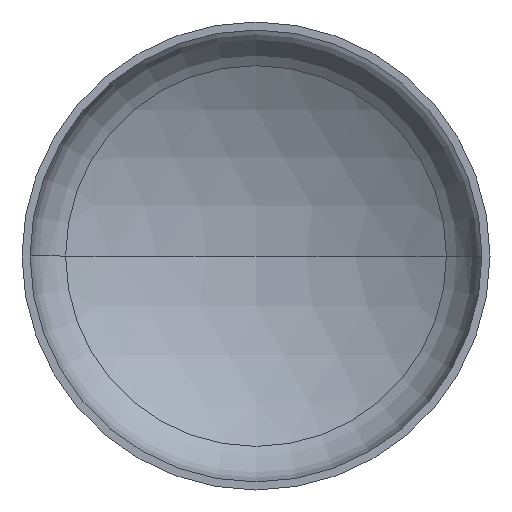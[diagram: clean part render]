
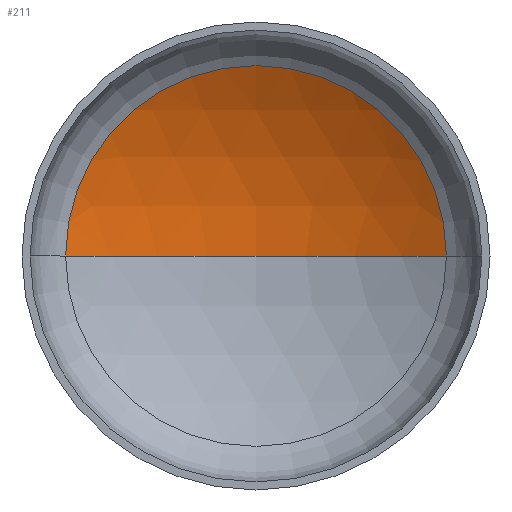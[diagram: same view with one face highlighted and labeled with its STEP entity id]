
A CAD part, front view. The second image highlights one B-rep face of the part: STEP entity #211.
In plain terms, the highlighted spherical face has radius 1760 mm.
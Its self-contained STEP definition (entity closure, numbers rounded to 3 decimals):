
#19 = AXIS2_PLACEMENT_3D ( 'NONE', #392, #252, #411 ) ;
#22 = AXIS2_PLACEMENT_3D ( 'NONE', #353, #209, #378 ) ;
#23 = EDGE_LOOP ( 'NONE', ( #293, #238, #106 ) ) ;
#34 = AXIS2_PLACEMENT_3D ( 'NONE', #153, #172, #169 ) ;
#35 = VERTEX_POINT ( 'NONE', #290 ) ;
#38 = CIRCLE ( 'NONE', #34, 1760. ) ;
#49 = VERTEX_POINT ( 'NONE', #265 ) ;
#61 = AXIS2_PLACEMENT_3D ( 'NONE', #129, #271, #124 ) ;
#96 = VERTEX_POINT ( 'NONE', #323 ) ;
#106 = ORIENTED_EDGE ( 'NONE', *, *, #346, .T. ) ;
#124 = DIRECTION ( 'NONE',  ( -1., 0., 0. ) ) ;
#129 = CARTESIAN_POINT ( 'NONE',  ( 0., -1102.749, 0. ) ) ;
#133 = CIRCLE ( 'NONE', #22, 1760. ) ;
#139 = CIRCLE ( 'NONE', #19, 894.873 ) ;
#145 = SPHERICAL_SURFACE ( 'NONE', #61, 1760. ) ;
#153 = CARTESIAN_POINT ( 'NONE',  ( 0., -1102.749, 0. ) ) ;
#169 = DIRECTION ( 'NONE',  ( -1., 0., 0. ) ) ;
#172 = DIRECTION ( 'NONE',  ( 0., 0., -1. ) ) ;
#209 = DIRECTION ( 'NONE',  ( 0., 0., 1. ) ) ;
#211 = ADVANCED_FACE ( 'NONE', ( #272 ), #145, .F. ) ;
#238 = ORIENTED_EDGE ( 'NONE', *, *, #333, .T. ) ;
#252 = DIRECTION ( 'NONE',  ( 0., -1., 0. ) ) ;
#265 = CARTESIAN_POINT ( 'NONE',  ( -894.873, 412.771, 0. ) ) ;
#271 = DIRECTION ( 'NONE',  ( 0., 0., -1. ) ) ;
#272 = FACE_OUTER_BOUND ( 'NONE', #23, .T. ) ;
#290 = CARTESIAN_POINT ( 'NONE',  ( 894.873, 412.771, 0. ) ) ;
#293 = ORIENTED_EDGE ( 'NONE', *, *, #343, .F. ) ;
#323 = CARTESIAN_POINT ( 'NONE',  ( 0., 657.251, 0. ) ) ;
#333 = EDGE_CURVE ( 'NONE', #96, #35, #38, .T. ) ;
#343 = EDGE_CURVE ( 'NONE', #96, #49, #133, .T. ) ;
#346 = EDGE_CURVE ( 'NONE', #35, #49, #139, .T. ) ;
#353 = CARTESIAN_POINT ( 'NONE',  ( 0., -1102.749, 0. ) ) ;
#378 = DIRECTION ( 'NONE',  ( 1., 0., 0. ) ) ;
#392 = CARTESIAN_POINT ( 'NONE',  ( 0., 412.771, 0. ) ) ;
#411 = DIRECTION ( 'NONE',  ( 1., 0., 0. ) ) ;
